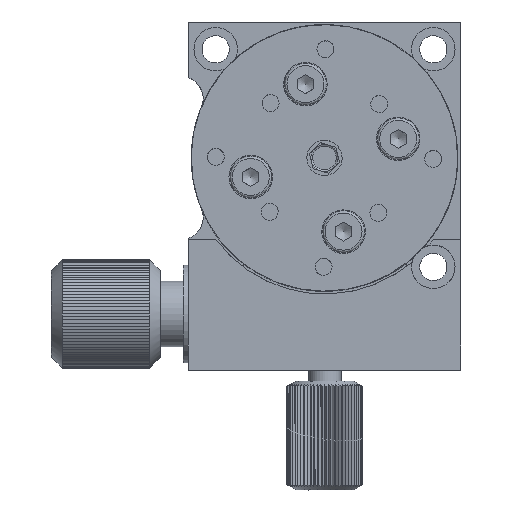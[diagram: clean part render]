
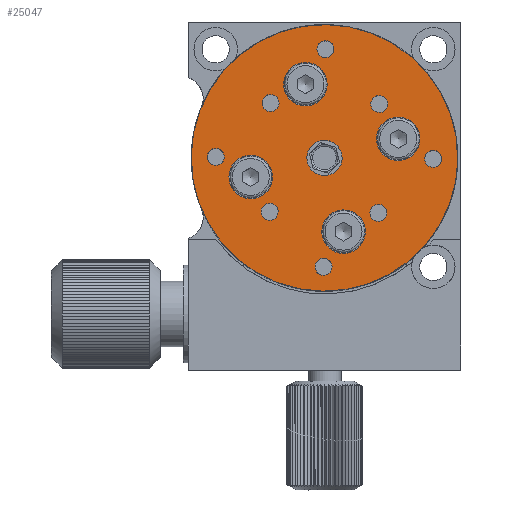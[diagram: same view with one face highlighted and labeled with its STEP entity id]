
A CAD part, top view. The second image highlights one B-rep face of the part: STEP entity #25047.
In plain terms, the highlighted planar face has unit normal (0, 0, 1).
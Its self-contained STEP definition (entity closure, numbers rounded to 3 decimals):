
#6249=PLANE($,#26918);
#6451=FACE_BOUND($,#9321,.T.);
#6452=FACE_BOUND($,#9322,.T.);
#6453=FACE_BOUND($,#9323,.T.);
#6454=FACE_BOUND($,#9324,.T.);
#6455=FACE_BOUND($,#9325,.T.);
#6456=FACE_BOUND($,#9326,.T.);
#6457=FACE_BOUND($,#9327,.T.);
#6458=FACE_BOUND($,#9328,.T.);
#6459=FACE_BOUND($,#9329,.T.);
#6460=FACE_BOUND($,#9330,.T.);
#6461=FACE_BOUND($,#9331,.T.);
#6462=FACE_BOUND($,#9332,.T.);
#6463=FACE_BOUND($,#9333,.T.);
#6464=FACE_BOUND($,#9334,.T.);
#9321=EDGE_LOOP($,(#22715));
#9322=EDGE_LOOP($,(#22716));
#9323=EDGE_LOOP($,(#22717));
#9324=EDGE_LOOP($,(#22718));
#9325=EDGE_LOOP($,(#22719));
#9326=EDGE_LOOP($,(#22720));
#9327=EDGE_LOOP($,(#22721));
#9328=EDGE_LOOP($,(#22722));
#9329=EDGE_LOOP($,(#22723));
#9330=EDGE_LOOP($,(#22724));
#9331=EDGE_LOOP($,(#22725));
#9332=EDGE_LOOP($,(#22726));
#9333=EDGE_LOOP($,(#22727));
#9334=EDGE_LOOP($,(#22728));
#10008=CIRCLE($,#26403,12.25);
#10063=CIRCLE($,#26870,2.);
#10066=CIRCLE($,#26875,2.);
#10068=CIRCLE($,#26879,2.);
#10071=CIRCLE($,#26884,2.);
#10073=CIRCLE($,#26887,0.784);
#10075=CIRCLE($,#26890,0.784);
#10077=CIRCLE($,#26893,0.784);
#10079=CIRCLE($,#26896,0.784);
#10082=CIRCLE($,#26900,0.784);
#10084=CIRCLE($,#26903,0.784);
#10087=CIRCLE($,#26907,0.784);
#10090=CIRCLE($,#26911,0.784);
#10092=CIRCLE($,#26914,1.621);
#11621=VERTEX_POINT($,#39553);
#12388=VERTEX_POINT($,#47597);
#12391=VERTEX_POINT($,#47605);
#12393=VERTEX_POINT($,#47611);
#12396=VERTEX_POINT($,#47619);
#12398=VERTEX_POINT($,#47624);
#12400=VERTEX_POINT($,#47629);
#12402=VERTEX_POINT($,#47634);
#12404=VERTEX_POINT($,#47639);
#12407=VERTEX_POINT($,#47646);
#12409=VERTEX_POINT($,#47651);
#12412=VERTEX_POINT($,#47658);
#12415=VERTEX_POINT($,#47665);
#12417=VERTEX_POINT($,#47670);
#14596=EDGE_CURVE($,#11621,#11621,#10008,.T.);
#15940=EDGE_CURVE($,#12388,#12388,#10063,.T.);
#15943=EDGE_CURVE($,#12391,#12391,#10066,.T.);
#15945=EDGE_CURVE($,#12393,#12393,#10068,.T.);
#15948=EDGE_CURVE($,#12396,#12396,#10071,.T.);
#15950=EDGE_CURVE($,#12398,#12398,#10073,.T.);
#15952=EDGE_CURVE($,#12400,#12400,#10075,.T.);
#15954=EDGE_CURVE($,#12402,#12402,#10077,.T.);
#15956=EDGE_CURVE($,#12404,#12404,#10079,.T.);
#15959=EDGE_CURVE($,#12407,#12407,#10082,.T.);
#15961=EDGE_CURVE($,#12409,#12409,#10084,.T.);
#15964=EDGE_CURVE($,#12412,#12412,#10087,.T.);
#15967=EDGE_CURVE($,#12415,#12415,#10090,.T.);
#15969=EDGE_CURVE($,#12417,#12417,#10092,.T.);
#22715=ORIENTED_EDGE($,*,*,#15940,.T.);
#22716=ORIENTED_EDGE($,*,*,#15943,.T.);
#22717=ORIENTED_EDGE($,*,*,#15945,.T.);
#22718=ORIENTED_EDGE($,*,*,#15948,.T.);
#22719=ORIENTED_EDGE($,*,*,#15950,.T.);
#22720=ORIENTED_EDGE($,*,*,#15952,.T.);
#22721=ORIENTED_EDGE($,*,*,#15954,.T.);
#22722=ORIENTED_EDGE($,*,*,#15956,.T.);
#22723=ORIENTED_EDGE($,*,*,#15959,.T.);
#22724=ORIENTED_EDGE($,*,*,#15961,.T.);
#22725=ORIENTED_EDGE($,*,*,#15964,.T.);
#22726=ORIENTED_EDGE($,*,*,#15967,.T.);
#22727=ORIENTED_EDGE($,*,*,#15969,.T.);
#22728=ORIENTED_EDGE($,*,*,#14596,.T.);
#25047=ADVANCED_FACE($,(#6451,#6452,#6453,#6454,#6455,#6456,#6457,#6458,
#6459,#6460,#6461,#6462,#6463,#6464),#6249,.F.);
#26403=AXIS2_PLACEMENT_3D($,#39554,#30661,#30662);
#26870=AXIS2_PLACEMENT_3D($,#47598,#32519,#32520);
#26875=AXIS2_PLACEMENT_3D($,#47606,#32529,#32530);
#26879=AXIS2_PLACEMENT_3D($,#47612,#32537,#32538);
#26884=AXIS2_PLACEMENT_3D($,#47620,#32547,#32548);
#26887=AXIS2_PLACEMENT_3D($,#47625,#32553,#32554);
#26890=AXIS2_PLACEMENT_3D($,#47630,#32559,#32560);
#26893=AXIS2_PLACEMENT_3D($,#47635,#32565,#32566);
#26896=AXIS2_PLACEMENT_3D($,#47640,#32571,#32572);
#26900=AXIS2_PLACEMENT_3D($,#47647,#32579,#32580);
#26903=AXIS2_PLACEMENT_3D($,#47652,#32585,#32586);
#26907=AXIS2_PLACEMENT_3D($,#47659,#32593,#32594);
#26911=AXIS2_PLACEMENT_3D($,#47666,#32601,#32602);
#26914=AXIS2_PLACEMENT_3D($,#47671,#32607,#32608);
#26918=AXIS2_PLACEMENT_3D($,#47676,#32615,#32616);
#30661=DIRECTION('center_axis',(0.,0.,
1.));
#30662=DIRECTION('ref_axis',(-1.,0.009,0.));
#32519=DIRECTION('center_axis',(0.,0.,
-1.));
#32520=DIRECTION('ref_axis',(-1.,0.009,0.));
#32529=DIRECTION('center_axis',(0.,0.,
-1.));
#32530=DIRECTION('ref_axis',(-1.,0.009,0.));
#32537=DIRECTION('center_axis',(0.,0.,
-1.));
#32538=DIRECTION('ref_axis',(-1.,0.009,0.));
#32547=DIRECTION('center_axis',(0.,0.,
-1.));
#32548=DIRECTION('ref_axis',(-1.,0.009,0.));
#32553=DIRECTION('center_axis',(0.,0.,
-1.));
#32554=DIRECTION('ref_axis',(-1.,0.009,0.));
#32559=DIRECTION('center_axis',(0.,0.,
-1.));
#32560=DIRECTION('ref_axis',(-1.,0.009,0.));
#32565=DIRECTION('center_axis',(0.,0.,
-1.));
#32566=DIRECTION('ref_axis',(-1.,0.009,0.));
#32571=DIRECTION('center_axis',(0.,0.,
-1.));
#32572=DIRECTION('ref_axis',(-1.,0.009,0.));
#32579=DIRECTION('center_axis',(0.,0.,
-1.));
#32580=DIRECTION('ref_axis',(-1.,0.009,0.));
#32585=DIRECTION('center_axis',(0.,0.,
-1.));
#32586=DIRECTION('ref_axis',(-1.,0.009,0.));
#32593=DIRECTION('center_axis',(0.,0.,
-1.));
#32594=DIRECTION('ref_axis',(-1.,0.009,0.));
#32601=DIRECTION('center_axis',(0.,0.,
-1.));
#32602=DIRECTION('ref_axis',(-1.,0.009,0.));
#32607=DIRECTION('center_axis',(0.,0.,
-1.));
#32608=DIRECTION('ref_axis',(-1.,0.009,0.));
#32615=DIRECTION('center_axis',(0.,0.,
-1.));
#32616=DIRECTION('ref_axis',(1.,-0.009,0.));
#39553=CARTESIAN_POINT('',(-0.25,19.392,14.8));
#39554=CARTESIAN_POINT('Origin',(-12.5,19.5,14.8));
#47597=CARTESIAN_POINT('',(-16.252,26.295,14.8));
#47598=CARTESIAN_POINT('Origin',(-14.252,26.277,14.8));
#47605=CARTESIAN_POINT('',(-12.748,12.74,14.8));
#47606=CARTESIAN_POINT('Origin',(-10.748,12.723,14.8));
#47611=CARTESIAN_POINT('',(-7.723,21.27,14.8));
#47612=CARTESIAN_POINT('Origin',(-5.723,21.252,14.8));
#47619=CARTESIAN_POINT('',(-21.277,17.765,14.8));
#47620=CARTESIAN_POINT('Origin',(-19.277,17.748,14.8));
#47624=CARTESIAN_POINT('',(-8.24,24.463,14.8));
#47625=CARTESIAN_POINT('Origin',(-7.456,24.456,14.8));
#47629=CARTESIAN_POINT('',(-18.327,14.551,14.8));
#47630=CARTESIAN_POINT('Origin',(-17.544,14.544,14.8));
#47634=CARTESIAN_POINT('',(-8.328,14.463,14.8));
#47635=CARTESIAN_POINT('Origin',(-7.544,14.456,14.8));
#47639=CARTESIAN_POINT('',(-18.239,24.551,14.8));
#47640=CARTESIAN_POINT('Origin',(-17.456,24.544,14.8));
#47646=CARTESIAN_POINT('',(-13.196,29.506,14.8));
#47647=CARTESIAN_POINT('Origin',(-12.412,29.5,14.8));
#47651=CARTESIAN_POINT('',(-13.371,9.507,14.8));
#47652=CARTESIAN_POINT('Origin',(-12.588,9.5,14.8));
#47658=CARTESIAN_POINT('',(-3.284,19.419,14.8));
#47659=CARTESIAN_POINT('Origin',(-2.5,19.412,14.8));
#47665=CARTESIAN_POINT('',(-23.283,19.595,14.8));
#47666=CARTESIAN_POINT('Origin',(-22.5,19.588,14.8));
#47670=CARTESIAN_POINT('',(-14.121,19.514,14.8));
#47671=CARTESIAN_POINT('Origin',(-12.5,19.5,14.8));
#47676=CARTESIAN_POINT('Origin',(-12.5,19.5,14.8));
